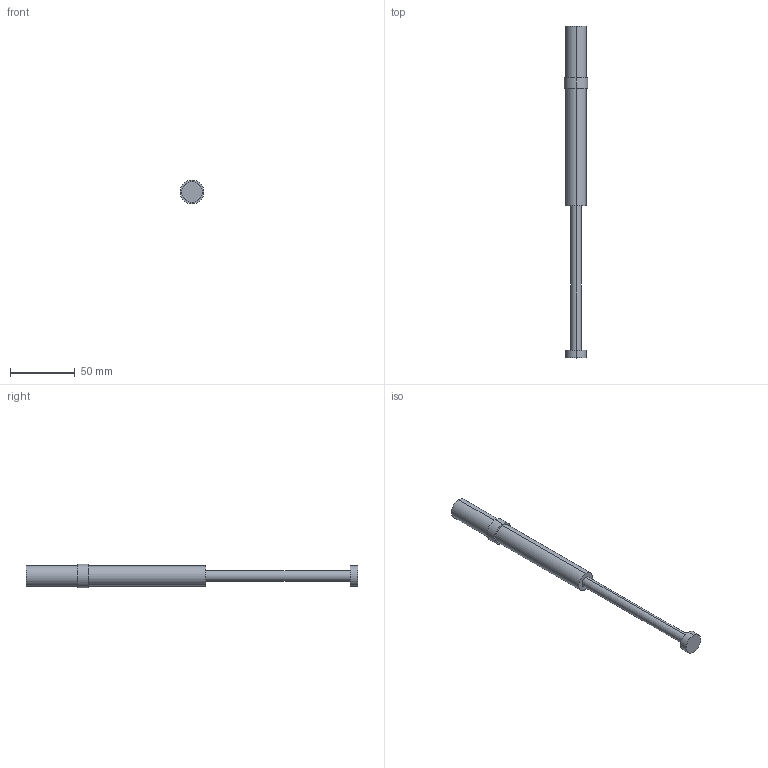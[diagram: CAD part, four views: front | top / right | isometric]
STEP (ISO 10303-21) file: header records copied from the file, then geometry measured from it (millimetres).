
FILE_DESCRIPTION (( 'STEP AP203' ), '1' );
FILE_NAME ('PS122250_.STEP', '2014-10-21T07:01:28', ( '' ), ( '' ), 'SwSTEP 2.0', 'SolidWorks 2014', '' );
FILE_SCHEMA (( 'CONFIG_CONTROL_DESIGN' ));
Length unit declared in the file: millimetre
Products named in the file (1): PS122250_
Bounding box: 18.2 x 256 x 18.2 mm (x, y, z)
Volume: 34198.8 mm3; surface area: 10841 mm2
Topology: 1 solids, 1 shells, 16 faces, 30 edges, 20 vertices
Faces by surface type: cylinder 10, plane 6
Entity records: 491 total; most frequent: DIRECTION 84, CARTESIAN_POINT 67, ORIENTED_EDGE 60, AXIS2_PLACEMENT_3D 37, EDGE_CURVE 30, CIRCLE 20, EDGE_LOOP 20, VERTEX_POINT 20
